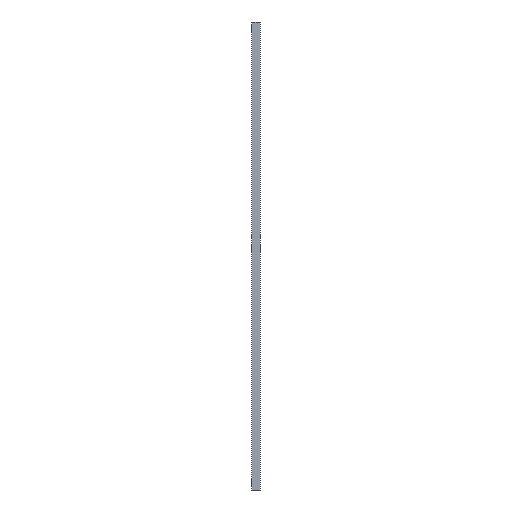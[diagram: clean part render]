
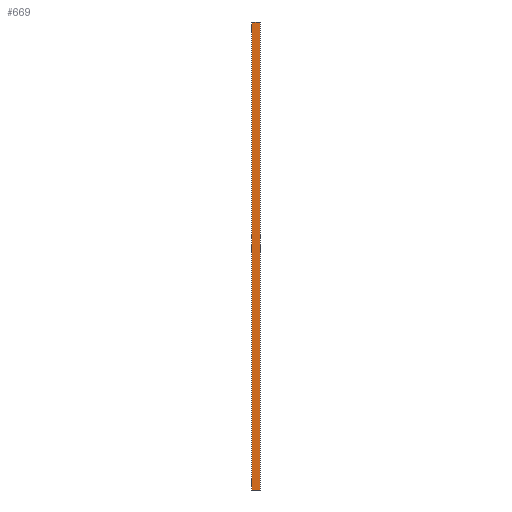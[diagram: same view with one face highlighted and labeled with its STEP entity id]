
A CAD part, left-side view. The second image highlights one B-rep face of the part: STEP entity #669.
In plain terms, the highlighted planar face has unit normal (-1, 0, 0).
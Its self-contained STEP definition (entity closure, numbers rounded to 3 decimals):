
#37 = LINE ( 'NONE', #1219, #430 ) ;
#39 = EDGE_CURVE ( 'NONE', #813, #1361, #1096, .T. ) ;
#55 = ORIENTED_EDGE ( 'NONE', *, *, #1402, .F. ) ;
#79 = DIRECTION ( 'NONE',  ( 0., 0., -1. ) ) ;
#90 = ORIENTED_EDGE ( 'NONE', *, *, #1186, .F. ) ;
#142 = VECTOR ( 'NONE', #1039, 1000. ) ;
#144 = PLANE ( 'NONE',  #313 ) ;
#147 = EDGE_CURVE ( 'NONE', #1074, #1005, #712, .T. ) ;
#189 = CARTESIAN_POINT ( 'NONE',  ( -8., 12.5, 679. ) ) ;
#199 = EDGE_CURVE ( 'NONE', #703, #1005, #1061, .T. ) ;
#227 = CARTESIAN_POINT ( 'NONE',  ( -8., 3.2, 679. ) ) ;
#261 = VECTOR ( 'NONE', #990, 1000. ) ;
#267 = ORIENTED_EDGE ( 'NONE', *, *, #775, .F. ) ;
#279 = LINE ( 'NONE', #189, #1264 ) ;
#306 = CARTESIAN_POINT ( 'NONE',  ( -8., 0., 0. ) ) ;
#308 = LINE ( 'NONE', #827, #926 ) ;
#313 = AXIS2_PLACEMENT_3D ( 'NONE', #584, #914, #1113 ) ;
#320 = DIRECTION ( 'NONE',  ( 0., 1., 0. ) ) ;
#342 = VERTEX_POINT ( 'NONE', #491 ) ;
#388 = ORIENTED_EDGE ( 'NONE', *, *, #39, .T. ) ;
#430 = VECTOR ( 'NONE', #1120, 1000. ) ;
#435 = VECTOR ( 'NONE', #1003, 1000. ) ;
#491 = CARTESIAN_POINT ( 'NONE',  ( -8., 9.3, 0. ) ) ;
#549 = CARTESIAN_POINT ( 'NONE',  ( -8., 0., 679. ) ) ;
#584 = CARTESIAN_POINT ( 'NONE',  ( -8., 0., 679. ) ) ;
#669 = ADVANCED_FACE ( 'NONE', ( #671 ), #144, .T. ) ;
#671 = FACE_OUTER_BOUND ( 'NONE', #1279, .T. ) ;
#703 = VERTEX_POINT ( 'NONE', #940 ) ;
#712 = LINE ( 'NONE', #1144, #1036 ) ;
#740 = CARTESIAN_POINT ( 'NONE',  ( -8., 12.5, 679. ) ) ;
#775 = EDGE_CURVE ( 'NONE', #342, #1098, #865, .T. ) ;
#777 = CARTESIAN_POINT ( 'NONE',  ( -8., 0., 679. ) ) ;
#786 = CARTESIAN_POINT ( 'NONE',  ( -8., 0., 679. ) ) ;
#813 = VERTEX_POINT ( 'NONE', #227 ) ;
#827 = CARTESIAN_POINT ( 'NONE',  ( -8., 0., 0. ) ) ;
#839 = DIRECTION ( 'NONE',  ( 0., 1., 0. ) ) ;
#865 = LINE ( 'NONE', #1193, #1179 ) ;
#874 = CARTESIAN_POINT ( 'NONE',  ( -8., 9.3, 679. ) ) ;
#881 = ORIENTED_EDGE ( 'NONE', *, *, #147, .F. ) ;
#914 = DIRECTION ( 'NONE',  ( -1., 0., 0. ) ) ;
#926 = VECTOR ( 'NONE', #839, 1000. ) ;
#940 = CARTESIAN_POINT ( 'NONE',  ( -8., 3.2, 0. ) ) ;
#990 = DIRECTION ( 'NONE',  ( 0., 1., 0. ) ) ;
#1002 = CARTESIAN_POINT ( 'NONE',  ( -8., 0., 0. ) ) ;
#1003 = DIRECTION ( 'NONE',  ( 0., -1., 0. ) ) ;
#1005 = VERTEX_POINT ( 'NONE', #1002 ) ;
#1036 = VECTOR ( 'NONE', #79, 1000. ) ;
#1039 = DIRECTION ( 'NONE',  ( 0., -1., 0. ) ) ;
#1049 = DIRECTION ( 'NONE',  ( 0., 0., -1. ) ) ;
#1061 = LINE ( 'NONE', #306, #142 ) ;
#1074 = VERTEX_POINT ( 'NONE', #786 ) ;
#1096 = LINE ( 'NONE', #549, #261 ) ;
#1098 = VERTEX_POINT ( 'NONE', #1138 ) ;
#1113 = DIRECTION ( 'NONE',  ( 0., 0., 1. ) ) ;
#1116 = EDGE_CURVE ( 'NONE', #1361, #1266, #37, .T. ) ;
#1120 = DIRECTION ( 'NONE',  ( 0., 1., 0. ) ) ;
#1127 = ORIENTED_EDGE ( 'NONE', *, *, #199, .T. ) ;
#1138 = CARTESIAN_POINT ( 'NONE',  ( -8., 12.5, 0. ) ) ;
#1144 = CARTESIAN_POINT ( 'NONE',  ( -8., 0., 679. ) ) ;
#1178 = EDGE_CURVE ( 'NONE', #1266, #1098, #279, .T. ) ;
#1179 = VECTOR ( 'NONE', #320, 1000. ) ;
#1186 = EDGE_CURVE ( 'NONE', #703, #342, #308, .T. ) ;
#1193 = CARTESIAN_POINT ( 'NONE',  ( -8., 0., 0. ) ) ;
#1219 = CARTESIAN_POINT ( 'NONE',  ( -8., 12.5, 679. ) ) ;
#1264 = VECTOR ( 'NONE', #1049, 1000. ) ;
#1266 = VERTEX_POINT ( 'NONE', #740 ) ;
#1279 = EDGE_LOOP ( 'NONE', ( #90, #1127, #881, #55, #388, #1379, #1359, #267 ) ) ;
#1359 = ORIENTED_EDGE ( 'NONE', *, *, #1178, .T. ) ;
#1361 = VERTEX_POINT ( 'NONE', #874 ) ;
#1379 = ORIENTED_EDGE ( 'NONE', *, *, #1116, .T. ) ;
#1402 = EDGE_CURVE ( 'NONE', #813, #1074, #1405, .T. ) ;
#1405 = LINE ( 'NONE', #777, #435 ) ;
